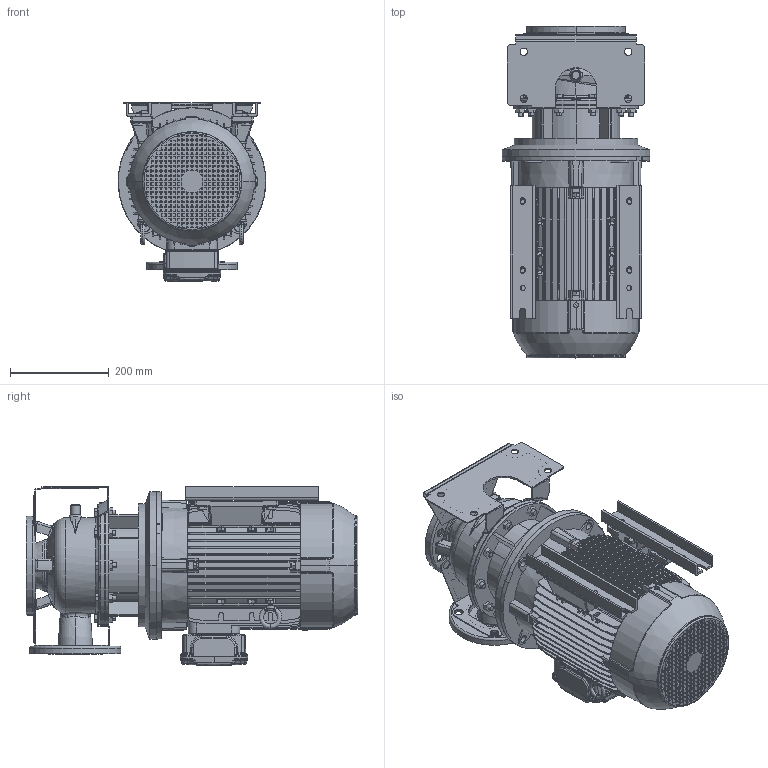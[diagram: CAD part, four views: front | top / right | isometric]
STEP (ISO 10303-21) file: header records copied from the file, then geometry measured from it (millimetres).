
FILE_DESCRIPTION (( 'STEP AP214' ), '1' );
FILE_NAME ('3LS 65-125_5.5 & 7.5_(132S)_W21.STEP', '2026-04-27T05:52:01', ( '' ), ( '' ), 'SwSTEP 2.0', 'SolidWorks 2024', '' );
FILE_SCHEMA (( 'AUTOMOTIVE_DESIGN' ));
Length unit declared in the file: inch
Products named in the file (4): Bolt & Washer M10 x 20.STEP; 132S ALIE3_W21T_B35; 3LS 65-125_5.5 & 7.5_(132S)_W21; 65-125_5_5_ie2_STEP
Assembly tree (6 placements, depth 2):
  3LS 65-125_5.5 & 7.5_(132S)_W21
    65-125_5_5_ie2_STEP
    132S ALIE3_W21T_B35
    Bolt & Washer M10 x 20.STEP  x4
Bounding box: 300 x 673.8 x 363 mm (x, y, z)
Volume: 26873857.8 mm3; surface area: 2225241.9 mm2
Topology: 19 solids, 19 shells, 4123 faces, 10668 edges, 6933 vertices
Faces by surface type: plane 2802, cylinder 780, torus 180, bspline 162, cone 159, sphere 40
Entity records: 140483 total; most frequent: CARTESIAN_POINT 42071, ORIENTED_EDGE 20904, DIRECTION 19384, EDGE_CURVE 10452, VECTOR 7580, LINE 7580, VERTEX_POINT 6807, AXIS2_PLACEMENT_3D 5902
